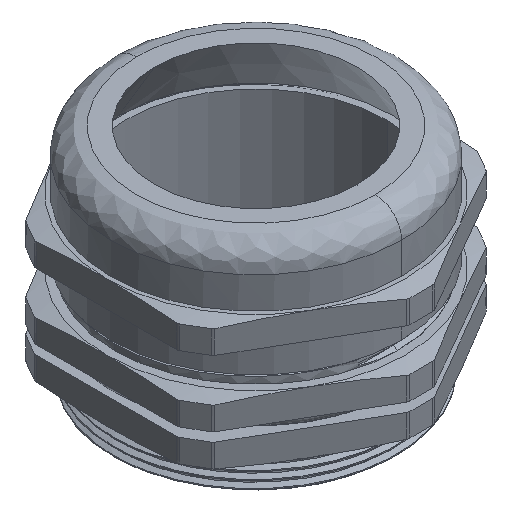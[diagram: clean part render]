
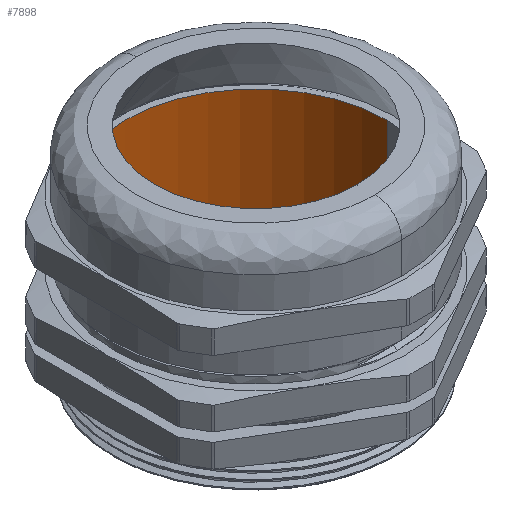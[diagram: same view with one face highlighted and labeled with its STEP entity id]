
A CAD part, isometric view. The second image highlights one B-rep face of the part: STEP entity #7898.
In plain terms, the highlighted cylindrical face has radius 25 mm (diameter 50 mm), a partial arc.
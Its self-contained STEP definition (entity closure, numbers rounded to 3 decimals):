
#226 = VECTOR ( 'NONE', #12380, 1000. ) ;
#944 = LINE ( 'NONE', #9985, #226 ) ;
#977 = DIRECTION ( 'NONE',  ( 0., 0., -1. ) ) ;
#1815 = CARTESIAN_POINT ( 'NONE',  ( 25., 0., 17. ) ) ;
#2061 = DIRECTION ( 'NONE',  ( 0., 0., -1. ) ) ;
#2094 = EDGE_CURVE ( 'NONE', #12670, #5625, #11678, .T. ) ;
#2122 = AXIS2_PLACEMENT_3D ( 'NONE', #3299, #977, #2323 ) ;
#2323 = DIRECTION ( 'NONE',  ( -1., 0., 0. ) ) ;
#3193 = DIRECTION ( 'NONE',  ( -1., 0., 0. ) ) ;
#3299 = CARTESIAN_POINT ( 'NONE',  ( 0., 0., -13. ) ) ;
#3335 = VECTOR ( 'NONE', #5752, 1000. ) ;
#4872 = CARTESIAN_POINT ( 'NONE',  ( 25., 0., 5. ) ) ;
#5211 = DIRECTION ( 'NONE',  ( 0., 0., 1. ) ) ;
#5332 = ORIENTED_EDGE ( 'NONE', *, *, #7959, .T. ) ;
#5625 = VERTEX_POINT ( 'NONE', #11280 ) ;
#5752 = DIRECTION ( 'NONE',  ( 0., 0., -1. ) ) ;
#7040 = EDGE_CURVE ( 'NONE', #10191, #5625, #11738, .T. ) ;
#7528 = ORIENTED_EDGE ( 'NONE', *, *, #7040, .F. ) ;
#7693 = EDGE_CURVE ( 'NONE', #10191, #8101, #14109, .T. ) ;
#7898 = ADVANCED_FACE ( 'NONE', ( #14717 ), #14788, .F. ) ;
#7959 = EDGE_CURVE ( 'NONE', #8101, #12670, #944, .T. ) ;
#7964 = CARTESIAN_POINT ( 'NONE',  ( 0., 0., 5. ) ) ;
#8101 = VERTEX_POINT ( 'NONE', #14572 ) ;
#8369 = ORIENTED_EDGE ( 'NONE', *, *, #2094, .T. ) ;
#8841 = ORIENTED_EDGE ( 'NONE', *, *, #7693, .T. ) ;
#9985 = CARTESIAN_POINT ( 'NONE',  ( -25., 0., 5. ) ) ;
#10191 = VERTEX_POINT ( 'NONE', #1815 ) ;
#10728 = AXIS2_PLACEMENT_3D ( 'NONE', #7964, #2061, #3193 ) ;
#11280 = CARTESIAN_POINT ( 'NONE',  ( 25., 0., -13. ) ) ;
#11632 = EDGE_LOOP ( 'NONE', ( #7528, #8841, #5332, #8369 ) ) ;
#11678 = CIRCLE ( 'NONE', #2122, 25. ) ;
#11738 = LINE ( 'NONE', #4872, #3335 ) ;
#11759 = CARTESIAN_POINT ( 'NONE',  ( -25., 0., -13. ) ) ;
#11957 = DIRECTION ( 'NONE',  ( 1., 0., 0. ) ) ;
#12027 = CARTESIAN_POINT ( 'NONE',  ( 0., 0., 17. ) ) ;
#12380 = DIRECTION ( 'NONE',  ( 0., 0., -1. ) ) ;
#12641 = AXIS2_PLACEMENT_3D ( 'NONE', #12027, #5211, #11957 ) ;
#12670 = VERTEX_POINT ( 'NONE', #11759 ) ;
#14109 = CIRCLE ( 'NONE', #12641, 25. ) ;
#14572 = CARTESIAN_POINT ( 'NONE',  ( -25., 0., 17. ) ) ;
#14717 = FACE_OUTER_BOUND ( 'NONE', #11632, .T. ) ;
#14788 = CYLINDRICAL_SURFACE ( 'NONE', #10728, 25. ) ;
